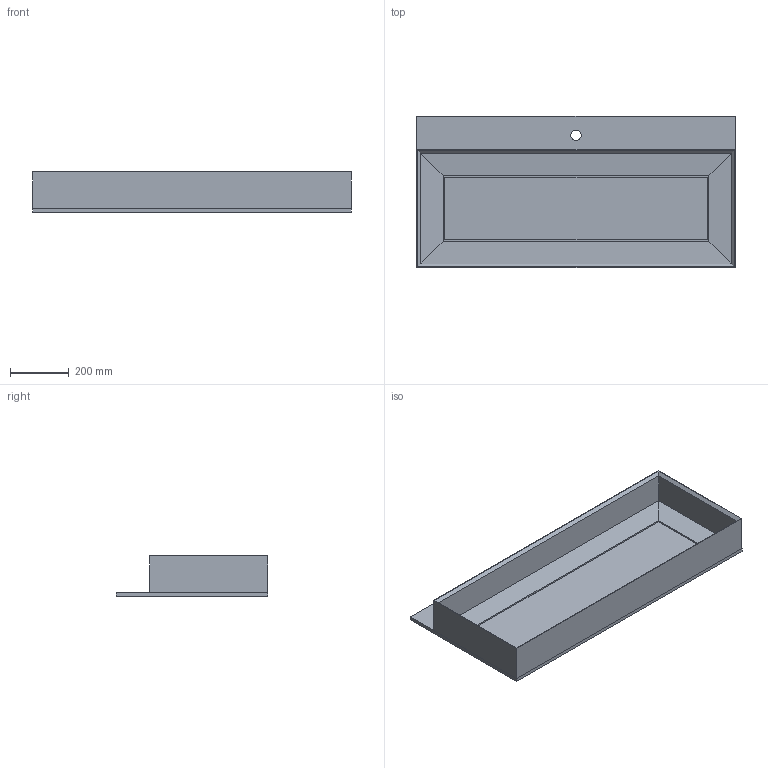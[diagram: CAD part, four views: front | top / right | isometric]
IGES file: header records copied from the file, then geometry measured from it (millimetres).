
Start section: Data from Parasolid IGES Translator 19.0.9, Copyright(c) 2006 Siemens PL M Software. All Rights Reserved.
Global section: file name: noorth-top-H 1,2 D 51,3 W 108_4651.igs; native system: By Siemens PLM Incorporated; preprocessor: XPlus GENERIC/IGES 19.0.9; author: Noname; organization: Noname; date: 20200603.115409; units: metre
Bounding box: 1080 x 513 x 137 mm (x, y, z)
Volume: 13791130.5 mm3; surface area: 2693411.2 mm2
Topology: 2 solids, 2 shells, 40 faces, 99 edges, 62 vertices
Faces by surface type: plane 39, cylinder 1
Full cylindrical faces by diameter (mm): 34.9 x1
